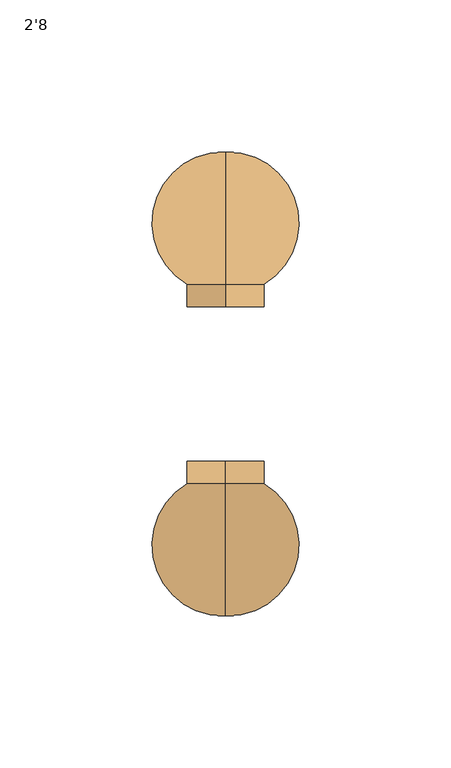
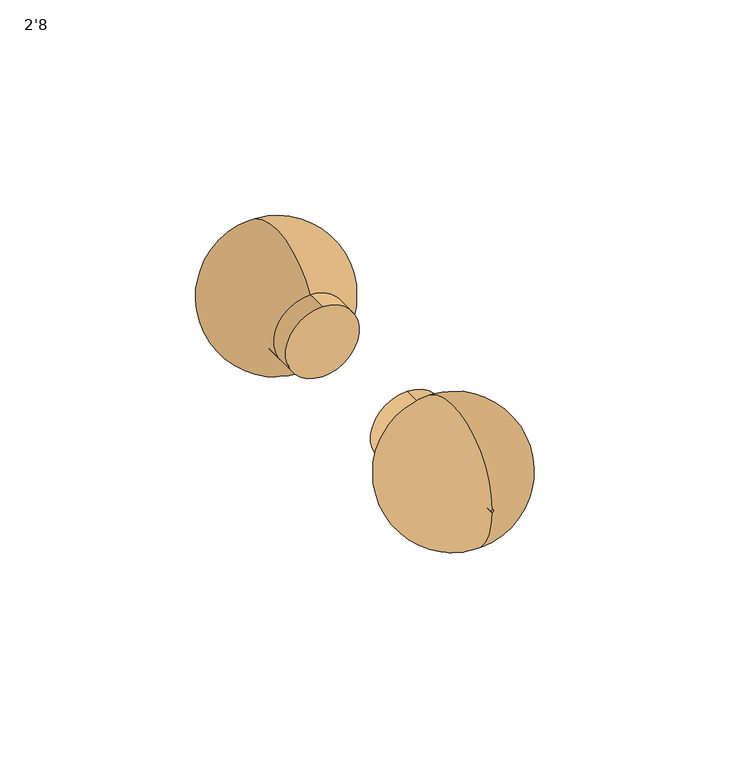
"""IFC4 building model written with IfcOpenShell, lengths in millimetres: door geometry, Planitar - Single Door : 2'8."""

from ifc_helpers import new_model, si_unit, point, frame, frame_2d, origin, place, context, project, spatial, polyline, circle_curve, ellipse_curve, trimmed, segment, composite_curve, outline, extrude, source, transform, mapped, element, save
from ifc_brep_helpers import plane_surface, revolved_surface, advanced_brep


def door_2_8_1d73a7a9(model_context):
    return source(origin(), model_context, "Body", "SolidModel", [
        advanced_brep(
        [(-342.9, 12.7, 1028.7), (-342.9, 7.3563035, 1028.7), (-342.9, 7.3563035, 1003.3), (-342.9, 12.7, 1003.3), (-342.9, 50.8, 1016.4831019), (-342.9, 12.7, 1016.4831019), (-342.9, 12.7, 1015.5168981), (-342.9, 50.8, 1015.5168981)],
        [
            (0, 1),
            (1, 2, circle_curve(frame((-342.9, 7.3563035, 1016.0), z_axis=(0.0, -1.0, 0.0), x_axis=(0.0, 0.0, -1.0)), 12.7)),
            (2, 3),
            (3, 0, circle_curve(frame((-342.9, 12.7, 1016.0), z_axis=(0.0, 1.0, 0.0), x_axis=(0.0, 0.0, -1.0)), 12.7)),
            (4, 5),
            (5, 6, circle_curve(frame((-342.9, 12.7, 1016.0), z_axis=(0.0, -1.0, 0.0), x_axis=(0.0, 0.0, -1.0)), 0.4831019)),
            (6, 7),
            (7, 4, circle_curve(frame((-342.9, 50.8, 1016.0), z_axis=(0.0, 1.0, 0.0), x_axis=(0.0, 0.0, -1.0)), 0.4831019)),
            (2, 1, circle_curve(frame((-342.9, 7.3563035, 1016.0), z_axis=(0.0, -1.0, 0.0), x_axis=(0.0, 0.0, 1.0)), 12.7)),
            (0, 3, circle_curve(frame((-342.9, 12.7, 1016.0), z_axis=(0.0, 1.0, 0.0), x_axis=(0.0, 0.0, 1.0)), 12.7)),
            (5, 6, circle_curve(frame((-342.9, 12.7, 1016.0), z_axis=(0.0, 1.0, 0.0), x_axis=(0.0, 0.0, 1.0)), 0.4831019)),
            (4, 7, circle_curve(frame((-342.9, 50.8, 1016.0), z_axis=(0.0, 1.0, 0.0), x_axis=(0.0, 0.0, 1.0)), 0.4831019)),
            (1, 4, circle_curve(frame((-342.9, 27.5182494, 1017.0444862), z_axis=(-1.0, 0.0, 0.0), x_axis=(0.0, 1.0, 0.0)), 23.2885178)),
            (7, 2, circle_curve(frame((-342.9, 27.5182494, 1014.9555138), z_axis=(-1.0, 0.0, 0.0), x_axis=(0.0, 1.0, 0.0)), 23.2885178)),
        ],
        [
            revolved_surface(polyline([(-342.9, 7.3563035, 1003.3), (-342.9, 12.7, 1003.3)]), (-342.9, 12.7, 1016.0), (0.0, -1.0, 0.0)),
            revolved_surface(polyline([(-342.9, 12.7, 1015.5168981), (-342.9, 50.8, 1015.5168981)]), (-342.9, 12.7, 1016.0), (0.0, -1.0, 0.0)),
            revolved_surface(polyline([(-342.9, 7.3563035, 1028.7), (-342.9, 12.7, 1028.7)]), (-342.9, 12.7, 1016.0), (0.0, -1.0, 0.0)),
            plane_surface(frame((-342.9, 12.7, 1016.0), z_axis=(0.0, -1.0, 0.0), x_axis=(0.0, 0.0, 1.0))),
            revolved_surface(polyline([(-342.9, 12.7, 1016.4831019), (-342.9, 50.8, 1016.4831019)]), (-342.9, 12.7, 1016.0), (0.0, -1.0, 0.0)),
            revolved_surface(trimmed(ellipse_curve(frame((-342.9, 27.5182494, 1014.9555138), z_axis=(-1.0, 0.0, 0.0), x_axis=(0.0, 1.0, 0.0)), 23.2885178, 23.2885178), [point((-342.9, 50.8, 1015.5168981))], [point((-342.9, 7.3563035, 1003.3))], True, "CARTESIAN"), (-342.9, 12.7, 1016.0), (0.0, -1.0, 0.0)),
            revolved_surface(trimmed(ellipse_curve(frame((-342.9, 27.5182494, 1017.0444862), z_axis=(1.0, 0.0, 0.0), x_axis=(0.0, 1.0, 0.0)), 23.2885178, 23.2885178), [point((-342.9, 50.8, 1016.4831019))], [point((-342.9, 7.3563035, 1028.7))], True, "CARTESIAN"), (-342.9, 12.7, 1016.0), (0.0, -1.0, 0.0)),
        ],
        [
            (0, [[1, 2, 3, 4]]),
            (1, [[5, 6, 7, 8]]),
            (2, [[-3, 9, -1, 10]]),
            (3, [[-4, -10], [-6, 11]]),
            (4, [[-7, -11, -5, 12]]),
            (5, [[13, -8, 14, -2]]),
            (6, [[-14, -12, -13, -9]]),
        ],
    ),
        extrude(outline(composite_curve([segment(trimmed(circle_curve(frame_2d((1016.0, -342.9)), 12.7), [point((1028.7, -342.9))], [point((1003.3, -342.9))], False, "CARTESIAN"), True, "CONTINUOUS"), segment(trimmed(circle_curve(frame_2d((1016.0, -342.9)), 12.7), [point((1003.3, -342.9))], [point((1028.7, -342.9))], False, "CARTESIAN"), True, "CONTINUOUS")], self_intersect=False)), frame((0.0, 0.0, 0.0), z_axis=(0.0, 1.0, 0.0), x_axis=(0.0, 0.0, 1.0)), (0.0, 0.0, 1.0), 12.7),
        advanced_brep(
        [(-342.9, -63.5, 1028.7), (-342.9, -58.1563035, 1028.7), (-342.9, -58.1563035, 1003.3), (-342.9, -63.5, 1003.3), (-342.9, -101.6, 1016.4831019), (-342.9, -63.5, 1016.4831019), (-342.9, -63.5, 1015.5168981), (-342.9, -101.6, 1015.5168981)],
        [
            (0, 1),
            (1, 2, circle_curve(frame((-342.9, -58.1563035, 1016.0), z_axis=(0.0, 1.0, 0.0), x_axis=(0.0, 0.0, -1.0)), 12.7)),
            (2, 3),
            (3, 0, circle_curve(frame((-342.9, -63.5, 1016.0), z_axis=(0.0, -1.0, 0.0), x_axis=(0.0, 0.0, -1.0)), 12.7)),
            (4, 5),
            (5, 6, circle_curve(frame((-342.9, -63.5, 1016.0), z_axis=(0.0, 1.0, 0.0), x_axis=(0.0, 0.0, -1.0)), 0.4831019)),
            (6, 7),
            (7, 4, circle_curve(frame((-342.9, -101.6, 1016.0), z_axis=(0.0, -1.0, 0.0), x_axis=(0.0, 0.0, -1.0)), 0.4831019)),
            (2, 1, circle_curve(frame((-342.9, -58.1563035, 1016.0), z_axis=(0.0, 1.0, 0.0), x_axis=(0.0, 0.0, 1.0)), 12.7)),
            (0, 3, circle_curve(frame((-342.9, -63.5, 1016.0), z_axis=(0.0, -1.0, 0.0), x_axis=(0.0, 0.0, 1.0)), 12.7)),
            (5, 6, circle_curve(frame((-342.9, -63.5, 1016.0), z_axis=(0.0, -1.0, 0.0), x_axis=(0.0, 0.0, 1.0)), 0.4831019)),
            (4, 7, circle_curve(frame((-342.9, -101.6, 1016.0), z_axis=(0.0, -1.0, 0.0), x_axis=(0.0, 0.0, 1.0)), 0.4831019)),
            (1, 4, circle_curve(frame((-342.9, -78.3182494, 1017.0444862), z_axis=(1.0, 0.0, 0.0), x_axis=(0.0, -1.0, 0.0)), 23.2885178)),
            (7, 2, circle_curve(frame((-342.9, -78.3182494, 1014.9555138), z_axis=(1.0, 0.0, 0.0), x_axis=(0.0, -1.0, 0.0)), 23.2885178)),
        ],
        [
            revolved_surface(polyline([(-342.9, -58.1563035, 1003.3), (-342.9, -63.5, 1003.3)]), (-342.9, -63.5, 1016.0), (0.0, 1.0, 0.0)),
            revolved_surface(polyline([(-342.9, -63.5, 1015.5168981), (-342.9, -101.6, 1015.5168981)]), (-342.9, -63.5, 1016.0), (0.0, 1.0, 0.0)),
            revolved_surface(polyline([(-342.9, -58.1563035, 1028.7), (-342.9, -63.5, 1028.7)]), (-342.9, -63.5, 1016.0), (0.0, 1.0, 0.0)),
            plane_surface(frame((-342.9, -63.5, 1016.0), z_axis=(0.0, 1.0, 0.0), x_axis=(0.0, 0.0, 1.0))),
            revolved_surface(polyline([(-342.9, -63.5, 1016.4831019), (-342.9, -101.6, 1016.4831019)]), (-342.9, -63.5, 1016.0), (0.0, 1.0, 0.0)),
            revolved_surface(trimmed(ellipse_curve(frame((-342.9, -78.3182494, 1014.9555138), z_axis=(1.0, 0.0, 0.0), x_axis=(0.0, -1.0, 0.0)), 23.2885178, 23.2885178), [point((-342.9, -101.6, 1015.5168981))], [point((-342.9, -58.1563035, 1003.3))], True, "CARTESIAN"), (-342.9, -63.5, 1016.0), (0.0, 1.0, 0.0)),
            revolved_surface(trimmed(ellipse_curve(frame((-342.9, -78.3182494, 1017.0444862), z_axis=(-1.0, 0.0, 0.0), x_axis=(0.0, -1.0, 0.0)), 23.2885178, 23.2885178), [point((-342.9, -101.6, 1016.4831019))], [point((-342.9, -58.1563035, 1028.7))], True, "CARTESIAN"), (-342.9, -63.5, 1016.0), (0.0, 1.0, 0.0)),
        ],
        [
            (0, [[1, 2, 3, 4]]),
            (1, [[5, 6, 7, 8]]),
            (2, [[-3, 9, -1, 10]]),
            (3, [[-4, -10], [-6, 11]]),
            (4, [[-7, -11, -5, 12]]),
            (5, [[13, -8, 14, -2]]),
            (6, [[-14, -12, -13, -9]]),
        ],
    ),
        extrude(outline(composite_curve([segment(trimmed(circle_curve(frame_2d((1016.0, -342.9)), 12.7), [point((1028.7, -342.9))], [point((1003.3, -342.9))], False, "CARTESIAN"), True, "CONTINUOUS"), segment(trimmed(circle_curve(frame_2d((1016.0, -342.9)), 12.7), [point((1003.3, -342.9))], [point((1028.7, -342.9))], False, "CARTESIAN"), True, "CONTINUOUS")], self_intersect=False)), frame((0.0, -63.5, 0.0), z_axis=(0.0, 1.0, 0.0), x_axis=(0.0, 0.0, 1.0)), (0.0, 0.0, 1.0), 12.7),
    ])


if __name__ == "__main__":
    model = new_model("IFC4")
    model_context = context("Model", 3, world=origin())
    ifc_project = project(units=[si_unit("LENGTHUNIT", "METRE", prefix="MILLI")], contexts=[model_context])
    site = spatial("IfcSite", under=ifc_project)
    building = spatial("IfcBuilding", under=site)
    placement = place(None, origin())
    door_2_8_shape = door_2_8_1d73a7a9(model_context)
    element("IfcDoor", 1, ObjectType="Planitar - Single Door : 2'8", at=placement, inside=building, context=model_context, shape_type="MappedRepresentation", body=[
        mapped(door_2_8_shape, transform((0.0, 0.0, 0.0), x_axis=(1.0, 0.0, 0.0), y_axis=(0.0, 1.0, 0.0), z_axis=(0.0, 0.0, 1.0))),
    ])
    save(model, "model.ifc")
